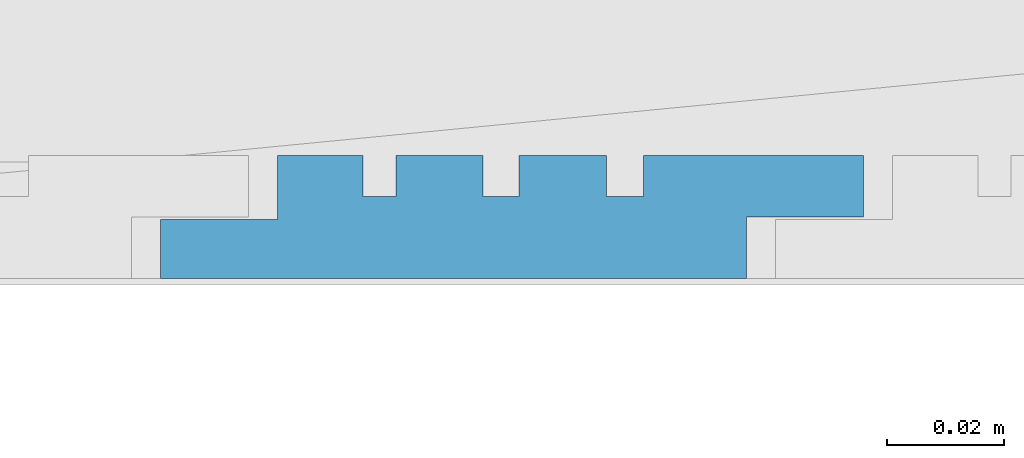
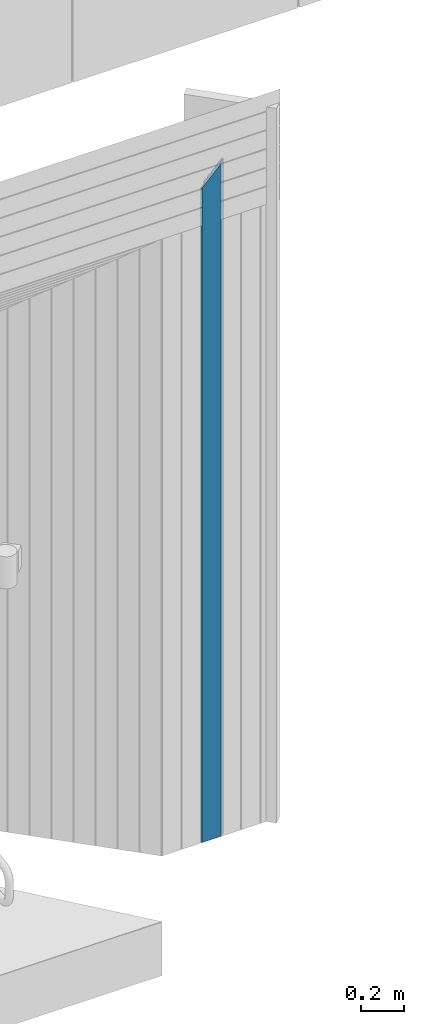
# One storey, part 104 of 418: 1 building element part, 1 element without a shape of its own.
"""IFC2X3 building model written with IfcOpenShell, lengths in millimetres."""

import ifcopenshell
import ifcopenshell.guid

model = None  # the IFC model being written
_history = None  # IfcOwnerHistory: only IFC2X3 demands one
_inside = {}  # id of a spatial element -> (the spatial element, [elements in it])
_under = {}  # id of a project, library or spatial element -> (it, [spatial elements below it])
_declared = {}  # id of a project -> (the project, [libraries it declares])
_typed = {}  # id of a type object -> (the type object, [elements of that type])
_made_of = {}  # id of a material, layer set ... -> (it, [elements and type objects made of it])


def new_model(schema):
    """Start an empty IFC model of exactly this schema.

    Asked for "IFC4X3", IfcOpenShell would pick the latest addendum, in which some entities
    have other attributes; the version numbers below select the first issue.
    IFC2X3 requires an IfcOwnerHistory on every rooted entity: one is made here for all.
    """
    global model, _history
    if schema == "IFC4X3":
        model = ifcopenshell.file(schema_version=(4, 3, 0, 0))
    else:
        model = ifcopenshell.file(schema=schema)
    _inside.clear()
    _under.clear()
    _declared.clear()
    _typed.clear()
    _made_of.clear()
    _history = None
    if model.schema == "IFC2X3":
        org = make("IfcOrganization", Name="unknown")
        user = make(
            "IfcPersonAndOrganization",
            ThePerson=make("IfcPerson", FamilyName="unknown"),
            TheOrganization=org,
        )
        app = make(
            "IfcApplication",
            ApplicationDeveloper=org,
            Version="unknown",
            ApplicationFullName="unknown",
            ApplicationIdentifier="unknown",
        )
        _history = make(
            "IfcOwnerHistory",
            OwningUser=user,
            OwningApplication=app,
            ChangeAction="ADDED",
            CreationDate=0,
        )
    return model


def make(cls, **values):
    """One entity of the class cls with the attributes given. An attribute that is None is left unset."""
    return model.create_entity(
        cls, **{name: value for name, value in values.items() if value is not None}
    )


def entity(cls, *values):
    """Any entity or typed value of the class cls, its attributes in the order of the schema. None: left unset."""
    e = model.create_entity(cls)
    for i, value in enumerate(values):
        if value is not None:
            e[i] = value
    return e


def rooted(cls, **values):
    """An entity with a GlobalId (a new one), such as an element, a storey or a relation."""
    return make(cls, GlobalId=ifcopenshell.guid.new(), OwnerHistory=_history, **values)


def si_unit(unit_type, name, prefix=None):
    """IfcSIUnit, for example si_unit("LENGTHUNIT", "METRE", prefix="MILLI")."""
    return make("IfcSIUnit", UnitType=unit_type, Prefix=prefix, Name=name)


def converted_unit(unit_type, name, factor, base, dimensions=None, offset=None):
    """IfcConversionBasedUnit, such as the inch: factor (a typed value) times the base unit."""
    return make(
        "IfcConversionBasedUnit"
        if offset is None
        else "IfcConversionBasedUnitWithOffset",
        ConversionOffset=offset,
        Dimensions=None
        if dimensions is None
        else entity("IfcDimensionalExponents", *dimensions),
        UnitType=unit_type,
        Name=name,
        ConversionFactor=make(
            "IfcMeasureWithUnit", ValueComponent=factor, UnitComponent=base
        ),
    )


def derived_unit(unit_type, elements):
    """IfcDerivedUnit: a product of units, each with its exponent."""
    return make(
        "IfcDerivedUnit",
        Elements=[
            make("IfcDerivedUnitElement", Unit=unit, Exponent=power)
            for unit, power in elements
        ],
        UnitType=unit_type,
    )


def money_unit(currency):
    """IfcMonetaryUnit."""
    return make("IfcMonetaryUnit", Currency=currency)


def assignment(units):
    """IfcUnitAssignment: the units of a project."""
    return None if units is None else make("IfcUnitAssignment", Units=units)


def point(xyz):
    """IfcCartesianPoint."""
    return None if xyz is None else make("IfcCartesianPoint", Coordinates=xyz)


def direction(xyz):
    """IfcDirection."""
    return None if xyz is None else make("IfcDirection", DirectionRatios=xyz)


def frame(location, z_axis=None, x_axis=None):
    """IfcAxis2Placement3D, a coordinate frame: its origin and axes. An axis left out is left unset."""
    return make(
        "IfcAxis2Placement3D",
        Location=point(location),
        Axis=direction(z_axis),
        RefDirection=direction(x_axis),
    )


def origin_with_axes():
    """The frame at (0, 0, 0) with the z axis (0, 0, 1) and the x axis (1, 0, 0) written out."""
    return frame((0.0, 0.0, 0.0), z_axis=(0.0, 0.0, 1.0), x_axis=(1.0, 0.0, 0.0))


def place(relative_to, where):
    """IfcLocalPlacement: puts the frame where relative to a parent placement (None: the world)."""
    return make(
        "IfcLocalPlacement", PlacementRelTo=relative_to, RelativePlacement=where
    )


def context(
    kind, dimensions, precision=None, world=None, true_north=None, identifier=None
):
    """IfcGeometricRepresentationContext, for example the 3D "Model" context."""
    return make(
        "IfcGeometricRepresentationContext",
        ContextIdentifier=identifier,
        ContextType=kind,
        CoordinateSpaceDimension=dimensions,
        Precision=precision,
        WorldCoordinateSystem=world,
        TrueNorth=true_north,
    )


def subcontext(parent, identifier, kind, view, scale=None):
    """IfcGeometricRepresentationSubContext, for example "Body" below "Model"."""
    return make(
        "IfcGeometricRepresentationSubContext",
        ContextIdentifier=identifier,
        ContextType=kind,
        ParentContext=parent,
        TargetScale=scale,
        TargetView=view,
    )


def project(units=None, contexts=None):
    """IfcProject with its units and contexts."""
    return rooted(
        "IfcProject",
        Name="project",
        RepresentationContexts=contexts,
        UnitsInContext=assignment(units),
    )


def spatial(cls, under=None, at=None, **own):
    """A site, building, storey or space (cls), placed at a placement, below another one or the project."""
    s = rooted(cls, ObjectPlacement=at, **own)
    if under is not None:
        _under.setdefault(under.id(), (under, []))[1].append(s)
    return s


def polyline(points):
    """IfcPolyline through the points."""
    return make("IfcPolyline", Points=[point(p) for p in points])


def outline(outer, holes=None, kind="AREA"):
    """IfcArbitraryClosedProfileDef: a profile drawn as a closed curve; with holes, ...WithVoids."""
    if holes is None:
        return make("IfcArbitraryClosedProfileDef", ProfileType=kind, OuterCurve=outer)
    return make(
        "IfcArbitraryProfileDefWithVoids",
        ProfileType=kind,
        OuterCurve=outer,
        InnerCurves=holes,
    )


def extrude(swept, where, along, depth):
    """IfcExtrudedAreaSolid: the profile swept, set in the frame where, extruded along a direction by depth."""
    return make(
        "IfcExtrudedAreaSolid",
        SweptArea=swept,
        Position=where,
        ExtrudedDirection=direction(along),
        Depth=depth,
    )


def boolean(op, a, b):
    """IfcBooleanResult of two solids."""
    return make("IfcBooleanResult", Operator=op, FirstOperand=a, SecondOperand=b)


def faces_of(points, faces, orient=None, outer=None):
    """IfcFace entities. A face is a list of loops; a loop is a list of indices into points, from 0.

    orient and outer hold one flag for each loop. By default every Orientation is true, the
    first loop of a face is its IfcFaceOuterBound and the others are IfcFaceBound.
    """
    made = []
    for i, loops in enumerate(faces):
        bounds = []
        for j, loop in enumerate(loops):
            is_outer = j == 0 if outer is None else outer[i][j]
            bounds.append(
                make(
                    "IfcFaceOuterBound" if is_outer else "IfcFaceBound",
                    Bound=make("IfcPolyLoop", Polygon=[points[k] for k in loop]),
                    Orientation=True if orient is None else orient[i][j],
                )
            )
        made.append(make("IfcFace", Bounds=bounds))
    return made


def faceted_brep(points, faces, orient=None, outer=None, voids=None):
    """IfcFacetedBrep: a solid bounded by flat faces; with voids (closed shells), ...WithVoids."""
    shared = [point(p) for p in points]
    hull = make("IfcClosedShell", CfsFaces=faces_of(shared, faces, orient, outer))
    if voids is None:
        return make("IfcFacetedBrep", Outer=hull)
    return make(
        "IfcFacetedBrepWithVoids",
        Outer=hull,
        Voids=[
            make(cls, CfsFaces=faces_of(shared, fs, o, b)) for cls, fs, o, b in voids
        ],
    )


def shape(context_of_items, identifier, shape_type, items):
    """IfcShapeRepresentation: the items that make up one representation, for example the "Body"."""
    return make(
        "IfcShapeRepresentation",
        ContextOfItems=context_of_items,
        RepresentationIdentifier=identifier,
        RepresentationType=shape_type,
        Items=items,
    )


def material(Name=None, Category=None):
    """IfcMaterial."""
    return make("IfcMaterial", Name=Name, Category=Category)


def made_of(thing, what):
    """Note that an element or type object is made of a material, layer set ...; save() writes the relation."""
    if what is not None:
        _made_of.setdefault(what.id(), (what, []))[1].append(thing)
    return thing


def type_object(cls, material=None, **own):
    """A type object (cls), such as IfcWallType, which elements share."""
    return made_of(rooted(cls, **own), material)


def element(
    cls,
    number,
    at=None,
    inside=None,
    cuts=None,
    type_object=None,
    material=None,
    context=None,
    identifier="Body",
    shape_type=None,
    held_by="IfcProductDefinitionShape",
    body=None,
    shapes=None,
    **own,
):
    """One element of the class cls, such as IfcWall. Its Tag is "e" and its number.

    at: its placement. inside: the storey or other place that contains it. cuts: it is an
    opening in that element (IfcRelVoidsElement). A single representation is given by context,
    identifier, shape_type and body (its items); several are given by shapes. held_by: the class
    of the entity that holds the representations. save() writes the other relations.
    """
    e = rooted(cls, Tag="e%d" % number, ObjectPlacement=at, **own)
    if body is not None:
        shapes = [shape(context, identifier, shape_type, body)]
    if shapes is not None:
        e.Representation = make(held_by, Representations=shapes)
    if inside is not None:
        _inside.setdefault(inside.id(), (inside, []))[1].append(e)
    if cuts is not None:
        rooted(
            "IfcRelVoidsElement", RelatingBuildingElement=cuts, RelatedOpeningElement=e
        )
    if type_object is not None:
        _typed.setdefault(type_object.id(), (type_object, []))[1].append(e)
    return made_of(e, material)


def aggregate(whole, parts):
    """IfcRelAggregates: a whole, such as a stair, and the parts it consists of."""
    return rooted("IfcRelAggregates", RelatingObject=whole, RelatedObjects=parts)


def save(model, path):
    """Write the relations noted so far, then the file.

    IfcRelAggregates (storeys below a building ...), IfcRelContainedInSpatialStructure (elements
    in a storey), IfcRelDefinesByType, IfcRelAssociatesMaterial and IfcRelDeclares: one each for
    every whole, place, type object, material and project.
    """
    for whole, parts in _under.values():
        aggregate(whole, parts)
    for where, things in _inside.values():
        rooted(
            "IfcRelContainedInSpatialStructure",
            RelatedElements=things,
            RelatingStructure=where,
        )
    for kind, things in _typed.values():
        rooted("IfcRelDefinesByType", RelatedObjects=things, RelatingType=kind)
    for what, things in _made_of.values():
        rooted("IfcRelAssociatesMaterial", RelatedObjects=things, RelatingMaterial=what)
    for by, libraries in _declared.values():
        rooted("IfcRelDeclares", RelatingContext=by, RelatedDefinitions=libraries)
    model.write(path)


model = new_model("IFC2X3")

# Units and contexts
model_context = context("Model", 3, precision=0.01, world=origin_with_axes(), true_north=direction((0.0, 1.0)))
body_context = subcontext(model_context, "Body", "Model", "MODEL_VIEW")
ifc_project = project(units=[si_unit("LENGTHUNIT", "METRE", prefix="MILLI"), si_unit("AREAUNIT", "SQUARE_METRE"), si_unit("VOLUMEUNIT", "CUBIC_METRE"), converted_unit("PLANEANGLEUNIT", "DEGREE", entity("IfcPlaneAngleMeasure", 0.0174532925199), si_unit("PLANEANGLEUNIT", "RADIAN"), dimensions=[0, 0, 0, 0, 0, 0, 0]), si_unit("SOLIDANGLEUNIT", "STERADIAN"), money_unit("EUR"), converted_unit("TIMEUNIT", "Year", entity("IfcTimeMeasure", 31556926.0), si_unit("TIMEUNIT", "SECOND"), dimensions=[0, 0, 1, 0, 0, 0, 0]), si_unit("MASSUNIT", "GRAM", prefix="KILO"), si_unit("THERMODYNAMICTEMPERATUREUNIT", "DEGREE_CELSIUS"), si_unit("LUMINOUSINTENSITYUNIT", "LUMEN"), si_unit("ENERGYUNIT", "JOULE", prefix="MEGA"), derived_unit("THERMALCONDUCTANCEUNIT", [(si_unit("POWERUNIT", "WATT"), 1), (si_unit("LENGTHUNIT", "METRE"), -1), (si_unit("THERMODYNAMICTEMPERATUREUNIT", "KELVIN"), -1)]), derived_unit("SPECIFICHEATCAPACITYUNIT", [(si_unit("ENERGYUNIT", "JOULE"), 1), (si_unit("MASSUNIT", "GRAM", prefix="KILO"), -1), (si_unit("THERMODYNAMICTEMPERATUREUNIT", "KELVIN"), -1)]), derived_unit("MASSDENSITYUNIT", [(si_unit("MASSUNIT", "GRAM", prefix="KILO"), 1), (si_unit("VOLUMEUNIT", "CUBIC_METRE"), -1)])], contexts=[model_context])

# Site, building, storey
site_placement = place(None, origin_with_axes())
site = spatial("IfcSite", under=ifc_project, at=site_placement, Name="Paldiski mnt 245/1, Tallinn, Harjumaa", CompositionType="COMPLEX")
building_placement = place(site_placement, origin_with_axes())
building = spatial("IfcBuilding", under=site, at=building_placement, Name="RKAS Hoone üldnimetus (kasutust iseloomustav) -> IFC Project Manager -> SOLIBRI", CompositionType="ELEMENT")
storey_placement = place(building_placement, origin_with_axes())
storey = spatial("IfcBuildingStorey", under=building, at=storey_placement, Name="Esimene korrus", CompositionType="ELEMENT", Elevation=0.0)

# Proxy, building element part
building_element_proxy_type = type_object("IfcBuildingElementProxyType", Name="Laudis esiprofiil_01 21 x 622", PredefinedType="NOTDEFINED")
proxy_placement = place(storey_placement, frame((-37270.373884, -18705.5141429, 0.0), z_axis=(0.0, 0.0, 1.0), x_axis=(0.0, -1.0, 0.0)))
proxy = element("IfcBuildingElementProxy", 1, at=proxy_placement, inside=storey, type_object=building_element_proxy_type, Name="Varikatus")
ifc_material = material(Name="Laudis 5072 Honka 45 horisontaalne raastas")
building_element_part_placement = place(proxy_placement, origin_with_axes())
building_element_part = element("IfcBuildingElementPart", 2, at=building_element_part_placement, material=ifc_material, Name="Laudis 5072 Honka 45 horisontaalne raastas", context=body_context, shape_type="CSG", body=[
    boolean("DIFFERENCE", boolean("DIFFERENCE", boolean("DIFFERENCE", boolean("DIFFERENCE", boolean("DIFFERENCE", boolean("DIFFERENCE", extrude(outline(polyline([(3.20348192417e-08, -310.971430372), (-10.5000010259, -310.971430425), (-10.5000005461, -290.971429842), (-20.9999998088, -290.971430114), (-21.0000010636, -328.497524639), (-14.0000005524, -328.497525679), (-14.0000003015, -334.860022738), (-20.99999981, -334.860022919), (-20.9999998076, -349.79914009), (-14.0000002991, -349.799139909), (-14.0000007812, -355.926080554), (-21.0000002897, -355.926080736), (-21.0000013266, -370.754573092), (-14.0000008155, -370.754574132), (-14.0000015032, -376.395242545), (-21.0000010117, -376.395242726), (-21.0000007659, -390.971429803), (-10.000001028, -390.971430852), (-10.0000002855, -410.971430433), (-7.63172636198e-07, -410.971430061), (3.20348192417e-08, -310.971430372)])), origin_with_axes(), (0.0, 0.0, 1.0), 4086.15997799), faceted_brep([(-10.5000005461, -395.971429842, 3689.02857134), (-20.9999998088, -395.971430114, 3689.02857107), (-20.9999998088, -395.971430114, 4086.15997799), (-10.5000005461, -395.971429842, 4086.15997799), (-21.0000010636, -433.497524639, 3651.50247655), (-10.5000010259, -415.971430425, 3669.02857076), (3.20348192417e-08, -415.971430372, 3669.02857081), (-7.63172636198e-07, -515.971430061, 3569.02857112), (-10.0000002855, -515.971430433, 3569.02857075), (-10.000001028, -495.971430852, 3589.02857033), (-21.0000007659, -495.971429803, 3589.02857138), (-21.0000010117, -481.395242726, 3603.60475846), (-14.0000015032, -481.395242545, 3603.60475864), (-14.0000008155, -475.754574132, 3609.24542705), (-21.0000013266, -475.754573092, 3609.24542809), (-21.0000002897, -460.926080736, 3624.07392045), (-14.0000007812, -460.926080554, 3624.07392063), (-14.0000002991, -454.799139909, 3630.20086128), (-20.9999998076, -454.79914009, 3630.20086109), (-20.99999981, -439.860022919, 3645.13997827), (-14.0000003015, -439.860022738, 3645.13997845), (-14.0000005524, -433.497525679, 3651.50247551), (-21.0000010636, -433.497524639, 4086.15997799), (-7.63172636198e-07, -515.971430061, 4086.15997799), (3.20348192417e-08, -415.971430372, 4086.15997799), (-10.5000010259, -415.971430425, 4086.15997799), (-14.0000005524, -433.497525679, 4086.15997799), (-14.0000003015, -439.860022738, 4086.15997799), (-20.99999981, -439.860022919, 4086.15997799), (-20.9999998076, -454.79914009, 4086.15997799), (-14.0000002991, -454.799139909, 4086.15997799), (-14.0000007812, -460.926080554, 4086.15997799), (-21.0000002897, -460.926080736, 4086.15997799), (-21.0000013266, -475.754573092, 4086.15997799), (-14.0000008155, -475.754574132, 4086.15997799), (-14.0000015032, -481.395242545, 4086.15997799), (-21.0000010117, -481.395242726, 4086.15997799), (-21.0000007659, -495.971429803, 4086.15997799), (-10.000001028, -495.971430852, 4086.15997799), (-10.0000002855, -515.971430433, 4086.15997799)], [[[0, 1, 2, 3]], [[4, 1, 0, 5, 6, 7, 8, 9, 10, 11, 12, 13, 14, 15, 16, 17, 18, 19, 20, 21]], [[1, 4, 22, 2]], [[23, 24, 25, 3, 2, 22, 26, 27, 28, 29, 30, 31, 32, 33, 34, 35, 36, 37, 38, 39]], [[5, 0, 3, 25]], [[6, 5, 25, 24]], [[7, 6, 24, 23]], [[8, 7, 23, 39]], [[9, 8, 39, 38]], [[10, 9, 38, 37]], [[11, 10, 37, 36]], [[12, 11, 36, 35]], [[13, 12, 35, 34]], [[14, 13, 34, 33]], [[15, 14, 33, 32]], [[16, 15, 32, 31]], [[17, 16, 31, 30]], [[18, 17, 30, 29]], [[19, 18, 29, 28]], [[20, 19, 28, 27]], [[21, 20, 27, 26]], [[4, 21, 26, 22]]])), faceted_brep([(-10.5000005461, -500.971429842, 3584.02857134), (-20.9999998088, -500.971430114, 3584.02857107), (-20.9999998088, -500.971430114, 4086.15997799), (-10.5000005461, -500.971429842, 4086.15997799), (-21.0000010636, -538.497524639, 3546.50247655), (-10.5000010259, -520.971430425, 3564.02857076), (3.20348192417e-08, -520.971430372, 3564.02857081), (-7.63172636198e-07, -620.971430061, 3464.02857112), (-10.0000002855, -620.971430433, 3464.02857075), (-10.000001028, -600.971430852, 3484.02857033), (-21.0000007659, -600.971429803, 3484.02857138), (-21.0000010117, -586.395242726, 3498.60475846), (-14.0000015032, -586.395242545, 3498.60475864), (-14.0000008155, -580.754574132, 3504.24542705), (-21.0000013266, -580.754573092, 3504.24542809), (-21.0000002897, -565.926080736, 3519.07392045), (-14.0000007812, -565.926080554, 3519.07392063), (-14.0000002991, -559.799139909, 3525.20086128), (-20.9999998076, -559.79914009, 3525.20086109), (-20.99999981, -544.860022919, 3540.13997827), (-14.0000003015, -544.860022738, 3540.13997845), (-14.0000005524, -538.497525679, 3546.50247551), (-21.0000010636, -538.497524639, 4086.15997799), (-7.63172636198e-07, -620.971430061, 4086.15997799), (3.20348192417e-08, -520.971430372, 4086.15997799), (-10.5000010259, -520.971430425, 4086.15997799), (-14.0000005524, -538.497525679, 4086.15997799), (-14.0000003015, -544.860022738, 4086.15997799), (-20.99999981, -544.860022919, 4086.15997799), (-20.9999998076, -559.79914009, 4086.15997799), (-14.0000002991, -559.799139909, 4086.15997799), (-14.0000007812, -565.926080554, 4086.15997799), (-21.0000002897, -565.926080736, 4086.15997799), (-21.0000013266, -580.754573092, 4086.15997799), (-14.0000008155, -580.754574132, 4086.15997799), (-14.0000015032, -586.395242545, 4086.15997799), (-21.0000010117, -586.395242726, 4086.15997799), (-21.0000007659, -600.971429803, 4086.15997799), (-10.000001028, -600.971430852, 4086.15997799), (-10.0000002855, -620.971430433, 4086.15997799)], [[[0, 1, 2, 3]], [[4, 1, 0, 5, 6, 7, 8, 9, 10, 11, 12, 13, 14, 15, 16, 17, 18, 19, 20, 21]], [[1, 4, 22, 2]], [[23, 24, 25, 3, 2, 22, 26, 27, 28, 29, 30, 31, 32, 33, 34, 35, 36, 37, 38, 39]], [[5, 0, 3, 25]], [[6, 5, 25, 24]], [[7, 6, 24, 23]], [[8, 7, 23, 39]], [[9, 8, 39, 38]], [[10, 9, 38, 37]], [[11, 10, 37, 36]], [[12, 11, 36, 35]], [[13, 12, 35, 34]], [[14, 13, 34, 33]], [[15, 14, 33, 32]], [[16, 15, 32, 31]], [[17, 16, 31, 30]], [[18, 17, 30, 29]], [[19, 18, 29, 28]], [[20, 19, 28, 27]], [[21, 20, 27, 26]], [[4, 21, 26, 22]]])), faceted_brep([(-10.5000005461, -185.971429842, 3899.02857134), (-20.9999998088, -185.971430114, 3899.02857107), (-20.9999998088, -185.971430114, 4086.15997799), (-10.5000005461, -185.971429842, 4086.15997799), (-21.0000010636, -223.497524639, 3861.50247655), (-10.5000010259, -205.971430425, 3879.02857076), (3.20348192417e-08, -205.971430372, 3879.02857081), (-7.63172636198e-07, -305.971430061, 3779.02857112), (-10.0000002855, -305.971430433, 3779.02857075), (-10.000001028, -285.971430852, 3799.02857033), (-21.0000007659, -285.971429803, 3799.02857138), (-21.0000010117, -271.395242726, 3813.60475846), (-14.0000015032, -271.395242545, 3813.60475864), (-14.0000008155, -265.754574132, 3819.24542705), (-21.0000013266, -265.754573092, 3819.24542809), (-21.0000002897, -250.926080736, 3834.07392045), (-14.0000007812, -250.926080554, 3834.07392063), (-14.0000002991, -244.799139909, 3840.20086128), (-20.9999998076, -244.79914009, 3840.20086109), (-20.99999981, -229.860022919, 3855.13997827), (-14.0000003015, -229.860022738, 3855.13997845), (-14.0000005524, -223.497525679, 3861.50247551), (-21.0000010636, -223.497524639, 4086.15997799), (-7.63172636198e-07, -305.971430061, 4086.15997799), (3.20348192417e-08, -205.971430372, 4086.15997799), (-10.5000010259, -205.971430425, 4086.15997799), (-14.0000005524, -223.497525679, 4086.15997799), (-14.0000003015, -229.860022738, 4086.15997799), (-20.99999981, -229.860022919, 4086.15997799), (-20.9999998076, -244.79914009, 4086.15997799), (-14.0000002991, -244.799139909, 4086.15997799), (-14.0000007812, -250.926080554, 4086.15997799), (-21.0000002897, -250.926080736, 4086.15997799), (-21.0000013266, -265.754573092, 4086.15997799), (-14.0000008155, -265.754574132, 4086.15997799), (-14.0000015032, -271.395242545, 4086.15997799), (-21.0000010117, -271.395242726, 4086.15997799), (-21.0000007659, -285.971429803, 4086.15997799), (-10.000001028, -285.971430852, 4086.15997799), (-10.0000002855, -305.971430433, 4086.15997799)], [[[0, 1, 2, 3]], [[4, 1, 0, 5, 6, 7, 8, 9, 10, 11, 12, 13, 14, 15, 16, 17, 18, 19, 20, 21]], [[1, 4, 22, 2]], [[23, 24, 25, 3, 2, 22, 26, 27, 28, 29, 30, 31, 32, 33, 34, 35, 36, 37, 38, 39]], [[5, 0, 3, 25]], [[6, 5, 25, 24]], [[7, 6, 24, 23]], [[8, 7, 23, 39]], [[9, 8, 39, 38]], [[10, 9, 38, 37]], [[11, 10, 37, 36]], [[12, 11, 36, 35]], [[13, 12, 35, 34]], [[14, 13, 34, 33]], [[15, 14, 33, 32]], [[16, 15, 32, 31]], [[17, 16, 31, 30]], [[18, 17, 30, 29]], [[19, 18, 29, 28]], [[20, 19, 28, 27]], [[21, 20, 27, 26]], [[4, 21, 26, 22]]])), faceted_brep([(-10.5000005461, -290.971429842, 3794.02857134), (-20.9999998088, -290.971430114, 3794.02857107), (-20.9999998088, -290.971430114, 4086.15997799), (-10.5000005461, -290.971429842, 4086.15997799), (-21.0000010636, -328.497524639, 3756.50247655), (-10.5000010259, -310.971430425, 3774.02857076), (3.20348192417e-08, -310.971430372, 3774.02857081), (-7.63172636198e-07, -410.971430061, 3674.02857112), (-10.0000002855, -410.971430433, 3674.02857075), (-10.000001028, -390.971430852, 3694.02857033), (-21.0000007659, -390.971429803, 3694.02857138), (-21.0000010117, -376.395242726, 3708.60475846), (-14.0000015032, -376.395242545, 3708.60475864), (-14.0000008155, -370.754574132, 3714.24542705), (-21.0000013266, -370.754573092, 3714.24542809), (-21.0000002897, -355.926080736, 3729.07392045), (-14.0000007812, -355.926080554, 3729.07392063), (-14.0000002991, -349.799139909, 3735.20086128), (-20.9999998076, -349.79914009, 3735.20086109), (-20.99999981, -334.860022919, 3750.13997827), (-14.0000003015, -334.860022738, 3750.13997845), (-14.0000005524, -328.497525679, 3756.50247551), (-21.0000010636, -328.497524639, 4086.15997799), (-7.63172636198e-07, -410.971430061, 4086.15997799), (3.20348192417e-08, -310.971430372, 4086.15997799), (-10.5000010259, -310.971430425, 4086.15997799), (-14.0000005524, -328.497525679, 4086.15997799), (-14.0000003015, -334.860022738, 4086.15997799), (-20.99999981, -334.860022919, 4086.15997799), (-20.9999998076, -349.79914009, 4086.15997799), (-14.0000002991, -349.799139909, 4086.15997799), (-14.0000007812, -355.926080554, 4086.15997799), (-21.0000002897, -355.926080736, 4086.15997799), (-21.0000013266, -370.754573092, 4086.15997799), (-14.0000008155, -370.754574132, 4086.15997799), (-14.0000015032, -376.395242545, 4086.15997799), (-21.0000010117, -376.395242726, 4086.15997799), (-21.0000007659, -390.971429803, 4086.15997799), (-10.000001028, -390.971430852, 4086.15997799), (-10.0000002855, -410.971430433, 4086.15997799)], [[[0, 1, 2, 3]], [[4, 1, 0, 5, 6, 7, 8, 9, 10, 11, 12, 13, 14, 15, 16, 17, 18, 19, 20, 21]], [[1, 4, 22, 2]], [[23, 24, 25, 3, 2, 22, 26, 27, 28, 29, 30, 31, 32, 33, 34, 35, 36, 37, 38, 39]], [[5, 0, 3, 25]], [[6, 5, 25, 24]], [[7, 6, 24, 23]], [[8, 7, 23, 39]], [[9, 8, 39, 38]], [[10, 9, 38, 37]], [[11, 10, 37, 36]], [[12, 11, 36, 35]], [[13, 12, 35, 34]], [[14, 13, 34, 33]], [[15, 14, 33, 32]], [[16, 15, 32, 31]], [[17, 16, 31, 30]], [[18, 17, 30, 29]], [[19, 18, 29, 28]], [[20, 19, 28, 27]], [[21, 20, 27, 26]], [[4, 21, 26, 22]]])), faceted_brep([(-1.4387921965e-06, -95.9714304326, 3989.02857075), (8.28137558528e-09, 1.13997680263, 4086.13997799), (8.28137558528e-09, 1.13997680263, 4086.15997799), (-1.4387921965e-06, -95.9714304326, 4086.15997799), (-14.0000008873, -12.860024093, 4072.13997709), (-10.0000000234, -95.9714304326, 3989.02857075), (-10.0000014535, -75.9714304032, 4009.02857078), (-21.0000013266, -75.9714304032, 4009.02857078), (-21.0000013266, -61.3952431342, 4023.60475805), (-14.0000008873, -61.3952431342, 4023.60475805), (-14.0000008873, -55.7545748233, 4029.24542636), (-21.0000013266, -55.7545733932, 4029.24542779), (-20.9999998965, -40.9260801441, 4044.07392104), (-14.0000008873, -40.9260801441, 4044.07392104), (-14.0000008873, -34.7991393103, 4050.20086187), (-20.9999998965, -34.7991407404, 4050.20086044), (-20.9999998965, -19.8600231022, 4065.13997808), (-14.0000008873, -19.8600231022, 4065.13997808), (-14.0000008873, -12.860024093, 4086.15997799), (-20.9999998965, -40.9260801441, 4086.15997799), (-21.0000013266, -55.7545733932, 4086.15997799), (-14.0000008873, -55.7545748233, 4086.15997799), (-14.0000008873, -61.3952431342, 4086.15997799), (-21.0000013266, -61.3952431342, 4086.15997799), (-21.0000013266, -75.9714304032, 4086.15997799), (-10.0000014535, -75.9714304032, 4086.15997799), (-10.0000000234, -95.9714304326, 4086.15997799), (-14.0000008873, -19.8600231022, 4086.15997799), (-20.9999998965, -19.8600231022, 4086.15997799), (-20.9999998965, -34.7991407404, 4086.15997799), (-14.0000008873, -34.7991393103, 4086.15997799), (-14.0000008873, -40.9260801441, 4086.15997799)], [[[0, 1, 2, 3]], [[4, 1, 0, 5, 6, 7, 8, 9, 10, 11, 12, 13, 14, 15, 16, 17]], [[1, 4, 18, 2]], [[19, 20, 21, 22, 23, 24, 25, 26, 3, 2, 18, 27, 28, 29, 30, 31]], [[5, 0, 3, 26]], [[6, 5, 26, 25]], [[7, 6, 25, 24]], [[8, 7, 24, 23]], [[9, 8, 23, 22]], [[10, 9, 22, 21]], [[11, 10, 21, 20]], [[12, 11, 20, 19]], [[13, 12, 19, 31]], [[14, 13, 31, 30]], [[15, 14, 30, 29]], [[16, 15, 29, 28]], [[17, 16, 28, 27]], [[4, 17, 27, 18]]])), faceted_brep([(-10.5000005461, -80.9714298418, 4004.02857134), (-20.9999998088, -80.9714301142, 4004.02857107), (-20.9999998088, -80.9714301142, 4086.15997799), (-10.5000005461, -80.9714298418, 4086.15997799), (-21.0000010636, -118.497524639, 3966.50247655), (-10.5000010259, -100.971430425, 3984.02857076), (3.20348192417e-08, -100.971430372, 3984.02857081), (-7.63172636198e-07, -200.971430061, 3884.02857112), (-10.0000002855, -200.971430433, 3884.02857075), (-10.000001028, -180.971430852, 3904.02857033), (-21.0000007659, -180.971429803, 3904.02857138), (-21.0000010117, -166.395242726, 3918.60475846), (-14.0000015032, -166.395242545, 3918.60475864), (-14.0000008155, -160.754574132, 3924.24542705), (-21.0000013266, -160.754573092, 3924.24542809), (-21.0000002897, -145.926080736, 3939.07392045), (-14.0000007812, -145.926080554, 3939.07392063), (-14.0000002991, -139.799139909, 3945.20086128), (-20.9999998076, -139.79914009, 3945.20086109), (-20.99999981, -124.860022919, 3960.13997827), (-14.0000003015, -124.860022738, 3960.13997845), (-14.0000005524, -118.497525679, 3966.50247551), (-21.0000010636, -118.497524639, 4086.15997799), (-7.63172636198e-07, -200.971430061, 4086.15997799), (3.20348192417e-08, -100.971430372, 4086.15997799), (-10.5000010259, -100.971430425, 4086.15997799), (-14.0000005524, -118.497525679, 4086.15997799), (-14.0000003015, -124.860022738, 4086.15997799), (-20.99999981, -124.860022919, 4086.15997799), (-20.9999998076, -139.79914009, 4086.15997799), (-14.0000002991, -139.799139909, 4086.15997799), (-14.0000007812, -145.926080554, 4086.15997799), (-21.0000002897, -145.926080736, 4086.15997799), (-21.0000013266, -160.754573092, 4086.15997799), (-14.0000008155, -160.754574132, 4086.15997799), (-14.0000015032, -166.395242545, 4086.15997799), (-21.0000010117, -166.395242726, 4086.15997799), (-21.0000007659, -180.971429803, 4086.15997799), (-10.000001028, -180.971430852, 4086.15997799), (-10.0000002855, -200.971430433, 4086.15997799)], [[[0, 1, 2, 3]], [[4, 1, 0, 5, 6, 7, 8, 9, 10, 11, 12, 13, 14, 15, 16, 17, 18, 19, 20, 21]], [[1, 4, 22, 2]], [[23, 24, 25, 3, 2, 22, 26, 27, 28, 29, 30, 31, 32, 33, 34, 35, 36, 37, 38, 39]], [[5, 0, 3, 25]], [[6, 5, 25, 24]], [[7, 6, 24, 23]], [[8, 7, 23, 39]], [[9, 8, 39, 38]], [[10, 9, 38, 37]], [[11, 10, 37, 36]], [[12, 11, 36, 35]], [[13, 12, 35, 34]], [[14, 13, 34, 33]], [[15, 14, 33, 32]], [[16, 15, 32, 31]], [[17, 16, 31, 30]], [[18, 17, 30, 29]], [[19, 18, 29, 28]], [[20, 19, 28, 27]], [[21, 20, 27, 26]], [[4, 21, 26, 22]]])),
])
aggregate(proxy, [building_element_part])

save(model, "model.ifc")
